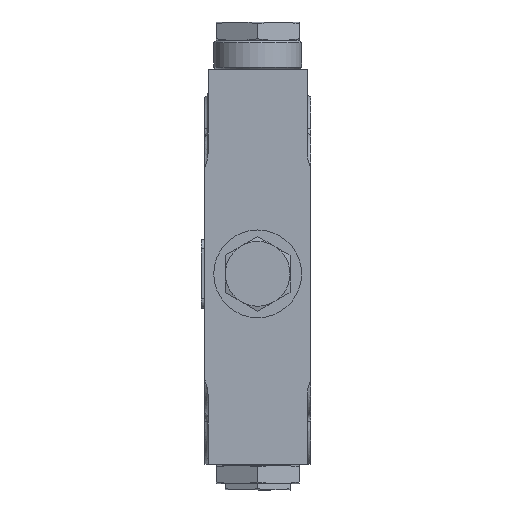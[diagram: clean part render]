
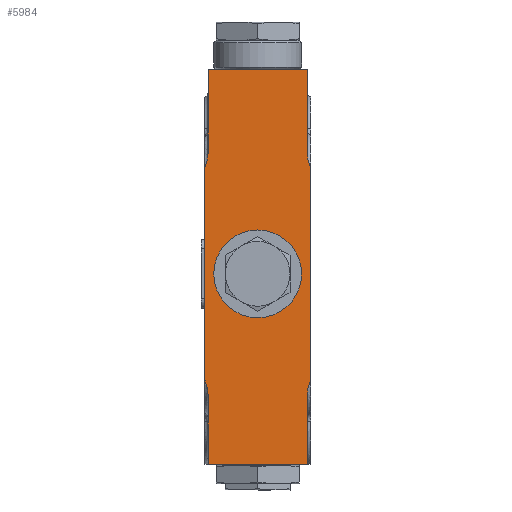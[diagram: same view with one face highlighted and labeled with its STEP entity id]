
A CAD part, front view. The second image highlights one B-rep face of the part: STEP entity #5984.
In plain terms, the highlighted planar face has unit normal (0, -1, 0).
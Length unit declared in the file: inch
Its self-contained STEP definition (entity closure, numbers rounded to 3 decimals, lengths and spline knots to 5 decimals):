
#241=CARTESIAN_POINT('',(0.594,-1.656,-0.0935));
#242=VERTEX_POINT('',#241);
#243=CARTESIAN_POINT('',(0.,-1.656,-0.0935));
#244=DIRECTION('',(0.0,1.0,0.0));
#245=DIRECTION('',(1.0,0.0,0.0));
#246=AXIS2_PLACEMENT_3D('',#243,#244,#245);
#247=CIRCLE('',#246,0.594);
#248=EDGE_CURVE('',#242,#242,#247,.T.);
#1667=CARTESIAN_POINT('',(-0.7185,-1.656,-1.51228));
#1668=VERTEX_POINT('',#1667);
#1676=CARTESIAN_POINT('',(-0.7185,-1.656,1.32328));
#1677=VERTEX_POINT('',#1676);
#1678=CARTESIAN_POINT('',(-0.7185,-1.656,1.32328));
#1679=DIRECTION('',(0.0,0.0,-1.0));
#1680=VECTOR('',#1679,2.83556);
#1681=LINE('',#1678,#1680);
#1682=EDGE_CURVE('',#1677,#1668,#1681,.T.);
#2685=CARTESIAN_POINT('',(0.671,-1.656,-2.6715));
#2686=VERTEX_POINT('',#2685);
#2693=CARTESIAN_POINT('',(-0.671,-1.656,-2.6715));
#2694=VERTEX_POINT('',#2693);
#2695=CARTESIAN_POINT('',(-0.671,-1.656,-2.6715));
#2696=DIRECTION('',(1.0,0.0,0.0));
#2697=VECTOR('',#2696,1.342);
#2698=LINE('',#2695,#2697);
#2699=EDGE_CURVE('',#2694,#2686,#2698,.T.);
#2837=CARTESIAN_POINT('',(0.7185,-1.656,1.32328));
#2838=VERTEX_POINT('',#2837);
#2846=CARTESIAN_POINT('',(0.7185,-1.656,-1.51228));
#2847=VERTEX_POINT('',#2846);
#2848=CARTESIAN_POINT('',(0.7185,-1.656,-1.51228));
#2849=DIRECTION('',(0.0,0.0,1.0));
#2850=VECTOR('',#2849,2.83556);
#2851=LINE('',#2848,#2850);
#2852=EDGE_CURVE('',#2847,#2838,#2851,.T.);
#3303=CARTESIAN_POINT('',(0.671,-1.656,2.6725));
#3304=VERTEX_POINT('',#3303);
#3305=CARTESIAN_POINT('',(-0.671,-1.656,2.6725));
#3306=VERTEX_POINT('',#3305);
#3307=CARTESIAN_POINT('',(0.671,-1.656,2.6725));
#3308=DIRECTION('',(-1.0,0.0,0.0));
#3309=VECTOR('',#3308,1.342);
#3310=LINE('',#3307,#3309);
#3311=EDGE_CURVE('',#3304,#3306,#3310,.T.);
#5190=CARTESIAN_POINT('',(-0.671,-1.656,1.53819));
#5191=VERTEX_POINT('',#5190);
#5192=CARTESIAN_POINT('',(-0.7185,-1.656,1.32328));
#5193=CARTESIAN_POINT('',(-0.69466,-1.656,1.39243));
#5194=CARTESIAN_POINT('',(-0.671,-1.656,1.46892));
#5195=CARTESIAN_POINT('',(-0.671,-1.656,1.53819));
#5196=B_SPLINE_CURVE_WITH_KNOTS('',3,(#5192,#5193,#5194,#5195),.UNSPECIFIED.,.F.,.U.,(4,4),(0.11176,0.63959),.UNSPECIFIED.);
#5197=EDGE_CURVE('',#1677,#5191,#5196,.T.);
#5225=CARTESIAN_POINT('',(-0.671,-1.656,-1.72719));
#5226=VERTEX_POINT('',#5225);
#5234=CARTESIAN_POINT('',(-0.671,-1.656,-1.72719));
#5235=CARTESIAN_POINT('',(-0.671,-1.656,-1.65792));
#5236=CARTESIAN_POINT('',(-0.69466,-1.656,-1.58143));
#5237=CARTESIAN_POINT('',(-0.7185,-1.656,-1.51228));
#5238=B_SPLINE_CURVE_WITH_KNOTS('',3,(#5234,#5235,#5236,#5237),.UNSPECIFIED.,.F.,.U.,(4,4),(1.33253,1.86036),.UNSPECIFIED.);
#5239=EDGE_CURVE('',#5226,#1668,#5238,.T.);
#5337=CARTESIAN_POINT('',(-0.671,-1.656,-2.6715));
#5338=DIRECTION('',(0.0,0.0,1.0));
#5339=VECTOR('',#5338,0.94431);
#5340=LINE('',#5337,#5339);
#5341=EDGE_CURVE('',#2694,#5226,#5340,.T.);
#5382=CARTESIAN_POINT('',(0.671,-1.656,-1.72719));
#5383=VERTEX_POINT('',#5382);
#5391=CARTESIAN_POINT('',(0.671,-1.656,-2.6715));
#5392=DIRECTION('',(0.0,0.0,1.0));
#5393=VECTOR('',#5392,0.94431);
#5394=LINE('',#5391,#5393);
#5395=EDGE_CURVE('',#2686,#5383,#5394,.T.);
#5478=CARTESIAN_POINT('',(0.7185,-1.656,-1.51228));
#5479=CARTESIAN_POINT('',(0.7077,-1.656,-1.54361));
#5480=CARTESIAN_POINT('',(0.69707,-1.656,-1.57655));
#5481=CARTESIAN_POINT('',(0.6795,-1.656,-1.64327));
#5482=CARTESIAN_POINT('',(0.671,-1.656,-1.68869));
#5483=CARTESIAN_POINT('',(0.671,-1.656,-1.72719));
#5484=B_SPLINE_CURVE_WITH_KNOTS('',3,(#5478,#5479,#5480,#5481,#5482,#5483),.UNSPECIFIED.,.F.,.U.,(4,2,4),(0.10963,0.34196,0.63538),.UNSPECIFIED.);
#5485=EDGE_CURVE('',#2847,#5383,#5484,.T.);
#5942=CARTESIAN_POINT('',(0.671,-1.656,0.0));
#5943=DIRECTION('',(0.0,-1.0,0.0));
#5944=DIRECTION('',(0.0,0.0,-1.0));
#5945=AXIS2_PLACEMENT_3D('',#5942,#5943,#5944);
#5946=PLANE('',#5945);
#5947=ORIENTED_EDGE('',*,*,#1682,.T.);
#5948=ORIENTED_EDGE('',*,*,#5239,.F.);
#5949=ORIENTED_EDGE('',*,*,#5341,.F.);
#5950=ORIENTED_EDGE('',*,*,#2699,.T.);
#5951=ORIENTED_EDGE('',*,*,#5395,.T.);
#5952=ORIENTED_EDGE('',*,*,#5485,.F.);
#5953=ORIENTED_EDGE('',*,*,#2852,.T.);
#5954=CARTESIAN_POINT('',(0.671,-1.656,1.53819));
#5955=VERTEX_POINT('',#5954);
#5956=CARTESIAN_POINT('',(0.671,-1.656,1.53819));
#5957=CARTESIAN_POINT('',(0.671,-1.656,1.49969));
#5958=CARTESIAN_POINT('',(0.6795,-1.656,1.45427));
#5959=CARTESIAN_POINT('',(0.69707,-1.656,1.38755));
#5960=CARTESIAN_POINT('',(0.7077,-1.656,1.35461));
#5961=CARTESIAN_POINT('',(0.7185,-1.656,1.32328));
#5962=B_SPLINE_CURVE_WITH_KNOTS('',3,(#5956,#5957,#5958,#5959,#5960,#5961),.UNSPECIFIED.,.F.,.U.,(4,2,4),(1.33674,1.63016,1.86249),.UNSPECIFIED.);
#5963=EDGE_CURVE('',#5955,#2838,#5962,.T.);
#5964=ORIENTED_EDGE('',*,*,#5963,.F.);
#5965=CARTESIAN_POINT('',(0.671,-1.656,1.53819));
#5966=DIRECTION('',(0.0,0.0,1.0));
#5967=VECTOR('',#5966,1.13431);
#5968=LINE('',#5965,#5967);
#5969=EDGE_CURVE('',#5955,#3304,#5968,.T.);
#5970=ORIENTED_EDGE('',*,*,#5969,.T.);
#5971=ORIENTED_EDGE('',*,*,#3311,.T.);
#5972=CARTESIAN_POINT('',(-0.671,-1.656,1.53819));
#5973=DIRECTION('',(0.0,0.0,1.0));
#5974=VECTOR('',#5973,1.13431);
#5975=LINE('',#5972,#5974);
#5976=EDGE_CURVE('',#5191,#3306,#5975,.T.);
#5977=ORIENTED_EDGE('',*,*,#5976,.F.);
#5978=ORIENTED_EDGE('',*,*,#5197,.F.);
#5979=EDGE_LOOP('',(#5947,#5948,#5949,#5950,#5951,#5952,#5953,#5964,#5970,#5971,#5977,#5978));
#5980=FACE_OUTER_BOUND('',#5979,.T.);
#5981=ORIENTED_EDGE('',*,*,#248,.T.);
#5982=EDGE_LOOP('',(#5981));
#5983=FACE_BOUND('',#5982,.T.);
#5984=ADVANCED_FACE('',(#5980,#5983),#5946,.T.);
